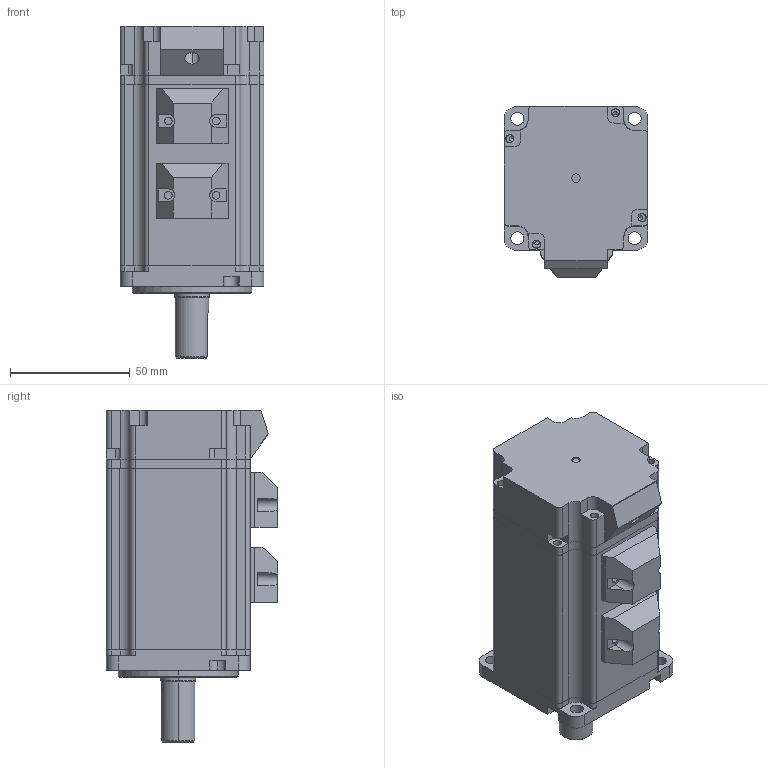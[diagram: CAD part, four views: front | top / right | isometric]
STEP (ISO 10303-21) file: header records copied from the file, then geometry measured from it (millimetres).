
FILE_DESCRIPTION (( 'STEP AP214' ), '1' );
FILE_NAME ('RSNA-M06J0630A-Z .STEP', '2022-05-21T04:51:56', ( '' ), ( '' ), 'SwSTEP 2.0', 'SolidWorks 2020', '' );
FILE_SCHEMA (( 'AUTOMOTIVE_DESIGN' ));
Length unit declared in the file: millimetre
Products named in the file (11): RSNA-M06J0630A-Z  ; 隅赽; S60DG-A-002; S60-H75.7-001; 綴欶; 侜督揤盄裔; S60DG-B-009; 666; 60SF200-K1444-009; 6000ZZ粣創; 6202ZZ粣創
Assembly tree (11 placements, depth 2):
  RSNA-M06J0630A-Z  
    S60-H75.7-001
    6000ZZ粣創
    60SF200-K1444-009
    6202ZZ粣創
    666
    S60DG-A-002
    S60DG-B-009
    隅赽
    侜督揤盄裔  x2
    綴欶
Bounding box: 60 x 71.5 x 138.7 mm (x, y, z)
Volume: 262267.6 mm3; surface area: 117430.8 mm2
Topology: 13 solids, 13 shells, 677 faces, 1774 edges, 1144 vertices
Faces by surface type: cylinder 341, plane 266, cone 52, torus 18
Entity records: 20934 total; most frequent: CARTESIAN_POINT 3990, DIRECTION 3444, ORIENTED_EDGE 3196, EDGE_CURVE 1598, AXIS2_PLACEMENT_3D 1320, VERTEX_POINT 1044, VECTOR 804, LINE 804
